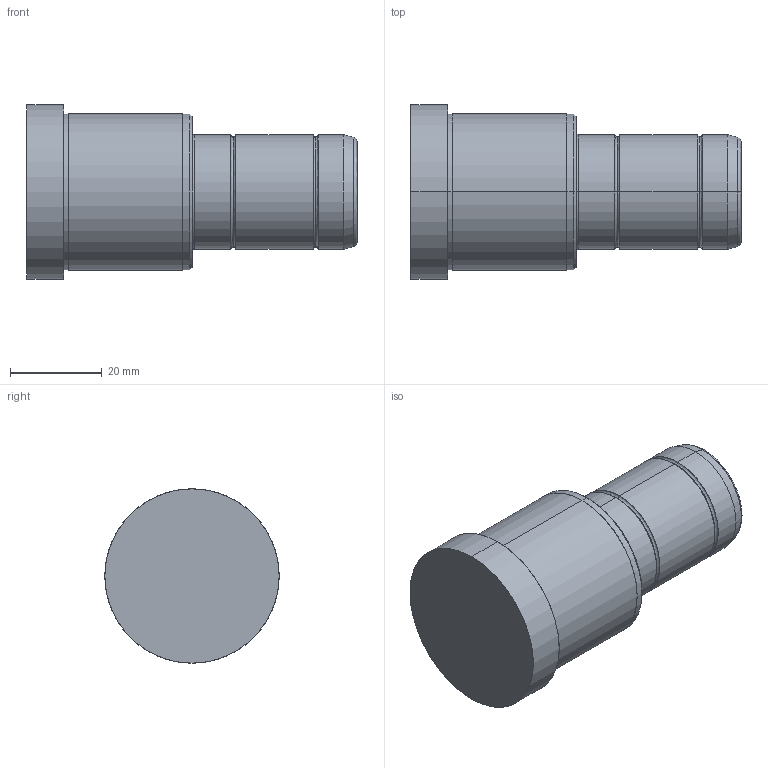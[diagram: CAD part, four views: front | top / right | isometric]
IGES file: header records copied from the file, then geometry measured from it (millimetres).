
Start section: SolidWorks IGES file using analytic representation for surfaces
Global section: file name: C:\Documents and Settings\kalite-mail\Desktop\IGS\D02\25\D02 - 25x36x36.IGS; native system: SolidWorks 2008; preprocessor: SolidWorks 2008; author: kalite-mail; date: 080616.172310; units: millimetre
Bounding box: 72 x 38 x 38 mm (x, y, z)
Surface area: 9002.7 mm2 (no closed solid volume)
Topology: 0 solids, 0 shells, 36 faces, 696 edges, 696 vertices
Faces by surface type: bspline 18, revolution 18
